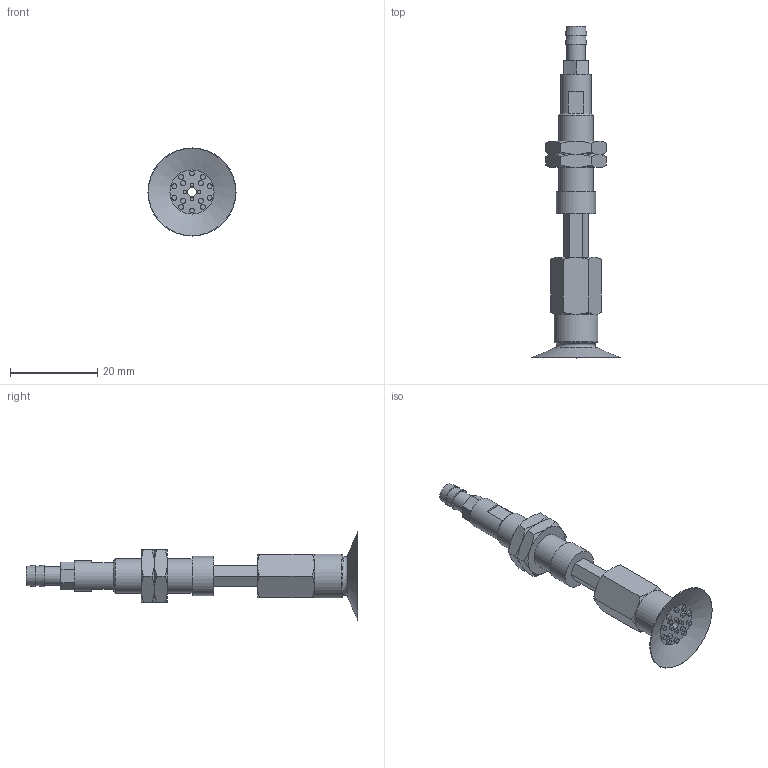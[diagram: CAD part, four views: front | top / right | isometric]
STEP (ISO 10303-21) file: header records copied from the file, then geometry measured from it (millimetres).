
FILE_DESCRIPTION(('STEP AP203'),'1');
FILE_NAME('-T.stp','2025-08-21T08:32:57',(' '),(' '),'Spatial InterOp 3D',' ',' ');
FILE_SCHEMA(('CONFIG_CONTROL_DESIGN'));
Length unit declared in the file: millimetre
Products named in the file (7): BNABPATH-20A-10-※-T; ADAPTER; NAPATH-10A-10--M; NAPATH-20A-10--F; Nut-10A-S; CONNECTOR-10A-3-T-PA; BPAG-20A-※
Assembly tree (7 placements, depth 2):
  BNABPATH-20A-10-※-T
    ADAPTER
    NAPATH-10A-10--M
    NAPATH-20A-10--F
    Nut-10A-S  x2
    CONNECTOR-10A-3-T-PA
    BPAG-20A-※
Bounding box: 20.19 x 76 x 20.19 mm (x, y, z)
Volume: 3997.3 mm3; surface area: 5126.3 mm2
Topology: 7 solids, 7 shells, 177 faces, 354 edges, 220 vertices
Faces by surface type: plane 83, cone 49, cylinder 35, torus 10
Full cylindrical faces by diameter (mm): 0.9 x4, 1.1 x14, 2 x3, 3 x1, 4 x2, 4.134 x1, 4.3 x1, 5 x1, 6 x2, 7 x1, 7.188 x2, 8 x1, 9 x1, 10 x1
Entity records: 4182 total; most frequent: CARTESIAN_POINT 876, DIRECTION 636, ORIENTED_EDGE 484, AXIS2_PLACEMENT_3D 280, EDGE_LOOP 250, EDGE_CURVE 242, FACE_OUTER_BOUND 198, VERTEX_POINT 184
